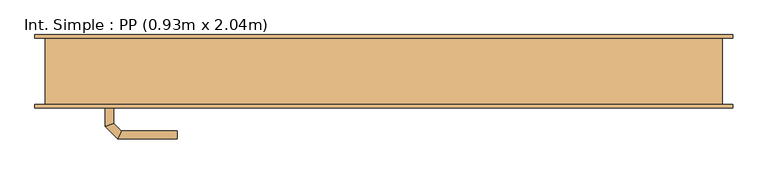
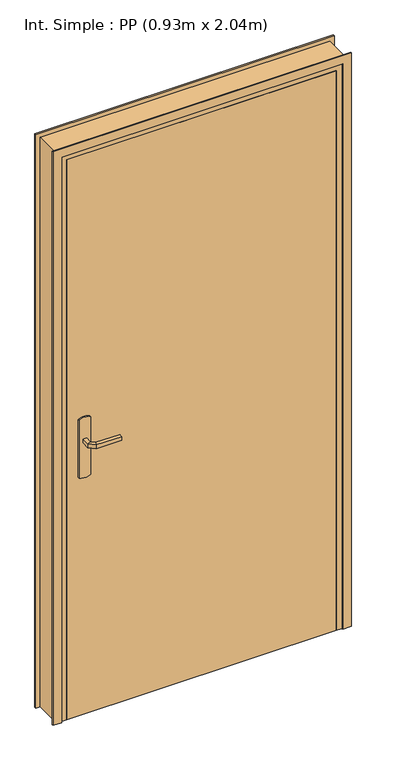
"""IFC4 building model written with IfcOpenShell, lengths in millimetres: door geometry, Int. Simple : PP (0.93m x 2.04m)."""

from ifc_helpers import new_model, si_unit, point, frame, frame_2d, origin, origin_with_axes, place, context, project, spatial, polyline, circle_curve, ellipse_curve, trimmed, segment, composite_curve, outline, extrude, faceted_brep, source, transform, mapped, element, save
from ifc_brep_helpers import plane_surface, cylinder_surface, advanced_brep


def int_simple_pp_0_93m_x_2_04m_e5c7a8a5(model_context):
    return source(origin(), model_context, "Body", "SolidModel", [
        extrude(outline(composite_curve([segment(trimmed(circle_curve(frame_2d((904.6410162, -440.0)), 40.0), [point((870.0, -460.0))], [point((870.0, -420.0))], False, "CARTESIAN"), True, "CONTINUOUS"), segment(polyline([(870.0, -420.0), (1080.0, -420.0)]), True, "CONTINUOUS"), segment(trimmed(circle_curve(frame_2d((1045.3589838, -440.0)), 40.0), [point((1080.0, -420.0))], [point((1080.0, -460.0))], False, "CARTESIAN"), True, "CONTINUOUS"), segment(polyline([(1080.0, -460.0), (870.0, -460.0)]), True, "CONTINUOUS")], self_intersect=False)), frame((0.0, -54.0, 0.0), z_axis=(0.0, 1.0, 0.0), x_axis=(0.0, 0.0, 1.0)), (0.0, 0.0, 1.0), 5.0),
        extrude(outline(composite_curve([segment(trimmed(circle_curve(frame_2d((1045.3589838, -440.0)), 40.0), [point((1080.0, -420.0))], [point((1080.0, -460.0))], False, "CARTESIAN"), True, "CONTINUOUS"), segment(polyline([(1080.0, -460.0), (870.0, -460.0)]), True, "CONTINUOUS"), segment(trimmed(circle_curve(frame_2d((904.6410162, -440.0)), 40.0), [point((870.0, -460.0))], [point((870.0, -420.0))], False, "CARTESIAN"), True, "CONTINUOUS"), segment(polyline([(870.0, -420.0), (1080.0, -420.0)]), True, "CONTINUOUS")], self_intersect=False)), frame((0.0, -9.0, 0.0), z_axis=(0.0, 1.0, 0.0), x_axis=(0.0, 0.0, 1.0)), (0.0, 0.0, 1.0), 5.0),
        advanced_brep(
        [(-446.0, -54.0, 1007.0), (-434.0, -54.0, 1007.0), (-434.0, -54.0, 993.0), (-446.0, -54.0, 993.0), (-446.0, -81.6509507, 1007.0), (-434.0, -76.680388, 1007.0), (-434.0, -76.680388, 993.0), (-446.0, -81.6509507, 993.0), (-427.62279, -100.0281607, 1007.0), (-422.6522273, -88.0281607, 1007.0), (-422.6522273, -88.0281607, 993.0), (-427.62279, -100.0281607, 993.0), (-339.9813594, -100.0281607, 1007.0), (-339.9813594, -100.0281607, 993.0), (-339.9813594, -88.0281607, 993.0), (-339.9813594, -88.0281607, 1007.0)],
        [
            (0, 1, circle_curve(frame((-440.0, -54.0, 986.9542278), z_axis=(0.0, 1.0, 0.0), x_axis=(1.0, 0.0, 0.0)), 20.9244589)),
            (1, 2),
            (2, 3, circle_curve(frame((-440.0, -54.0, 1013.0457722), z_axis=(0.0, 1.0, 0.0), x_axis=(1.0, 0.0, 0.0)), 20.9244589)),
            (3, 0),
            (0, 4),
            (4, 5, ellipse_curve(frame((-440.0, -79.1656693, 986.9542278), z_axis=(-0.3826834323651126, 0.9238795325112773, 0.0), x_axis=(0.9238795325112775, 0.38268343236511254, 0.0)), 22.6484711, 20.9244589)),
            (5, 1),
            (5, 6),
            (6, 2),
            (6, 7, ellipse_curve(frame((-440.0, -79.1656693, 1013.0457722), z_axis=(-0.3826834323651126, 0.9238795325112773, 0.0), x_axis=(0.9238795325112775, 0.38268343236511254, 0.0)), 22.6484711, 20.9244589)),
            (7, 3),
            (7, 4),
            (4, 8),
            (8, 9, ellipse_curve(frame((-425.1375086, -94.0281607, 986.9542278), z_axis=(-0.9238795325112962, 0.38268343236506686, 0.0), x_axis=(0.3826834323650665, 0.9238795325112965, 0.0)), 22.6484711, 20.9244589)),
            (9, 5),
            (9, 10),
            (10, 6),
            (10, 11, ellipse_curve(frame((-425.1375086, -94.0281607, 1013.0457722), z_axis=(-0.9238795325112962, 0.38268343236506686, 0.0), x_axis=(0.3826834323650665, 0.9238795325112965, 0.0)), 22.6484711, 20.9244589)),
            (11, 7),
            (11, 8),
            (12, 13),
            (13, 14, circle_curve(frame((-339.9813594, -94.0281607, 1013.0457722), z_axis=(1.0, 0.0, 0.0), x_axis=(0.0, 1.0, 0.0)), 20.9244589)),
            (14, 15),
            (15, 12, circle_curve(frame((-339.9813594, -94.0281607, 986.9542278), z_axis=(1.0, 0.0, 0.0), x_axis=(0.0, 1.0, 0.0)), 20.9244589)),
            (8, 12),
            (15, 9),
            (14, 10),
            (13, 11),
        ],
        [
            plane_surface(frame((-449.2195445, -54.0, 1000.0), z_axis=(0.0, 1.0, 0.0), x_axis=(0.0, 0.0, -1.0))),
            cylinder_surface(frame((-440.0, -54.0, 986.9542278), z_axis=(0.0, 1.0, 0.0), x_axis=(1.0, 0.0, 0.0)), 20.9244589),
            plane_surface(frame((-434.0, -54.0, 1007.0), z_axis=(1.0, 0.0, 0.0), x_axis=(0.0, -1.0, 0.0))),
            cylinder_surface(frame((-440.0, -54.0, 1013.0457722), z_axis=(0.0, 1.0, 0.0), x_axis=(1.0, 0.0, 0.0)), 20.9244589),
            plane_surface(frame((-446.0, -54.0, 993.0), z_axis=(-1.0, 0.0, 0.0), x_axis=(0.0, -1.0, 0.0))),
            cylinder_surface(frame((-440.0, -79.1656693, 986.9542278), z_axis=(-0.7071067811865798, 0.7071067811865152, 0.0), x_axis=(0.7071067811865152, 0.7071067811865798, 0.0)), 20.9244589),
            plane_surface(frame((-434.0, -76.680388, 1007.0), z_axis=(0.7071067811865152, 0.7071067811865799, 0.0), x_axis=(0.7071067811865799, -0.7071067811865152, 0.0))),
            cylinder_surface(frame((-440.0, -79.1656693, 1013.0457722), z_axis=(-0.7071067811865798, 0.7071067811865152, 0.0), x_axis=(0.7071067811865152, 0.7071067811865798, 0.0)), 20.9244589),
            plane_surface(frame((-446.0, -81.6509507, 993.0), z_axis=(-0.7071067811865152, -0.7071067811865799, 0.0), x_axis=(0.7071067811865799, -0.7071067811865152, 0.0))),
            plane_surface(frame((-339.9813594, -94.0281607, 990.7804555), z_axis=(1.0, 0.0, 0.0), x_axis=(0.0, 1.0, 0.0))),
            cylinder_surface(frame((-425.1375086, -94.0281607, 986.9542278), z_axis=(-1.0, 0.0, 0.0), x_axis=(0.0, 1.0, 0.0)), 20.9244589),
            plane_surface(frame((-422.6522273, -88.0281607, 1007.0), z_axis=(0.0, 1.0, 0.0), x_axis=(1.0, 0.0, 0.0))),
            cylinder_surface(frame((-425.1375086, -94.0281607, 1013.0457722), z_axis=(-1.0, 0.0, 0.0), x_axis=(0.0, 1.0, 0.0)), 20.9244589),
            plane_surface(frame((-427.62279, -100.0281607, 993.0), z_axis=(0.0, -1.0, 0.0), x_axis=(1.0, 0.0, 0.0))),
        ],
        [
            (0, [[1, 2, 3, 4]]),
            (1, [[-1, 5, 6, 7]]),
            (2, [[-2, -7, 8, 9]]),
            (3, [[-3, -9, 10, 11]]),
            (4, [[-4, -11, 12, -5]]),
            (5, [[-6, 13, 14, 15]]),
            (6, [[-8, -15, 16, 17]]),
            (7, [[-10, -17, 18, 19]]),
            (8, [[-12, -19, 20, -13]]),
            (9, [[21, 22, 23, 24]]),
            (10, [[-14, 25, -24, 26]]),
            (11, [[-16, -26, -23, 27]]),
            (12, [[-18, -27, -22, 28]]),
            (13, [[-20, -28, -21, -25]]),
        ],
    ),
        advanced_brep(
        [(-434.0, -4.0, 993.0), (-434.0, -4.0, 1007.0), (-446.0, -4.0, 1007.0), (-446.0, -4.0, 993.0), (-434.0, 18.4852045, 993.0), (-434.0, 18.4852045, 1007.0), (-446.0, 23.4557673, 1007.0), (-446.0, 23.4557673, 993.0), (-422.5147186, 29.9704859, 993.0), (-422.5147186, 29.9704859, 1007.0), (-427.4852814, 41.9704859, 1007.0), (-427.4852814, 41.9704859, 993.0), (-339.9542163, 29.9704859, 993.0), (-339.9542163, 41.9704859, 993.0), (-339.9542163, 41.9704859, 1007.0), (-339.9542163, 29.9704859, 1007.0)],
        [
            (0, 1),
            (1, 2, circle_curve(frame((-440.0, -4.0, 986.9542278), z_axis=(0.0, -1.0, 0.0), x_axis=(-1.0, 0.0, 0.0)), 20.9244589)),
            (2, 3),
            (3, 0, circle_curve(frame((-440.0, -4.0, 1013.0457722), z_axis=(0.0, -1.0, 0.0), x_axis=(-1.0, 0.0, 0.0)), 20.9244589)),
            (0, 4),
            (4, 5),
            (5, 1),
            (5, 6, ellipse_curve(frame((-440.0, 20.9704859, 986.9542278), z_axis=(-0.3826834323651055, -0.9238795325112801, 0.0), x_axis=(0.9238795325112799, -0.3826834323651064, 0.0)), 22.6484711, 20.9244589)),
            (6, 2),
            (6, 7),
            (7, 3),
            (7, 4, ellipse_curve(frame((-440.0, 20.9704859, 1013.0457722), z_axis=(-0.3826834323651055, -0.9238795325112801, 0.0), x_axis=(0.9238795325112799, -0.3826834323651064, 0.0)), 22.6484711, 20.9244589)),
            (4, 8),
            (8, 9),
            (9, 5),
            (9, 10, ellipse_curve(frame((-425.0, 35.9704859, 986.9542278), z_axis=(-0.9238795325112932, -0.382683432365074, 0.0), x_axis=(0.3826834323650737, -0.9238795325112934, 0.0)), 22.6484711, 20.9244589)),
            (10, 6),
            (10, 11),
            (11, 7),
            (11, 8, ellipse_curve(frame((-425.0, 35.9704859, 1013.0457722), z_axis=(-0.9238795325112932, -0.382683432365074, 0.0), x_axis=(0.3826834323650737, -0.9238795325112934, 0.0)), 22.6484711, 20.9244589)),
            (12, 13, circle_curve(frame((-339.9542163, 35.9704859, 1013.0457722), z_axis=(1.0, 0.0, 0.0), x_axis=(0.0, 1.0, 0.0)), 20.9244589)),
            (13, 14),
            (14, 15, circle_curve(frame((-339.9542163, 35.9704859, 986.9542278), z_axis=(1.0, 0.0, 0.0), x_axis=(0.0, 1.0, 0.0)), 20.9244589)),
            (15, 12),
            (8, 12),
            (15, 9),
            (14, 10),
            (13, 11),
        ],
        [
            plane_surface(frame((-449.2195445, -4.0, 1000.0), z_axis=(0.0, -1.0, 0.0), x_axis=(0.0, 0.0, 1.0))),
            plane_surface(frame((-434.0, -4.0, 993.0), z_axis=(1.0, 0.0, 0.0), x_axis=(0.0, 1.0, 0.0))),
            cylinder_surface(frame((-440.0, -4.0, 986.9542278), z_axis=(0.0, -1.0, 0.0), x_axis=(-1.0, 0.0, 0.0)), 20.9244589),
            plane_surface(frame((-446.0, -4.0, 1007.0), z_axis=(-1.0, 0.0, 0.0), x_axis=(0.0, 1.0, 0.0))),
            cylinder_surface(frame((-440.0, -4.0, 1013.0457722), z_axis=(0.0, -1.0, 0.0), x_axis=(-1.0, 0.0, 0.0)), 20.9244589),
            plane_surface(frame((-434.0, 18.4852045, 993.0), z_axis=(0.7071067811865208, -0.7071067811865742, 0.0), x_axis=(0.7071067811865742, 0.7071067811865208, 0.0))),
            cylinder_surface(frame((-440.0, 20.9704859, 986.9542278), z_axis=(-0.7071067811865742, -0.7071067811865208, 0.0), x_axis=(-0.7071067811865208, 0.7071067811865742, 0.0)), 20.9244589),
            plane_surface(frame((-446.0, 23.4557673, 1007.0), z_axis=(-0.7071067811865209, 0.7071067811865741, 0.0), x_axis=(0.7071067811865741, 0.7071067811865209, 0.0))),
            cylinder_surface(frame((-440.0, 20.9704859, 1013.0457722), z_axis=(-0.7071067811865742, -0.7071067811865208, 0.0), x_axis=(-0.7071067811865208, 0.7071067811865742, 0.0)), 20.9244589),
            plane_surface(frame((-339.9542163, 35.9704859, 990.7804555), z_axis=(1.0, 0.0, 0.0), x_axis=(0.0, 1.0, 0.0))),
            plane_surface(frame((-422.5147186, 29.9704859, 993.0), z_axis=(0.0, -1.0, 0.0), x_axis=(1.0, 0.0, 0.0))),
            cylinder_surface(frame((-425.0, 35.9704859, 986.9542278), z_axis=(-1.0, 0.0, 0.0), x_axis=(0.0, 1.0, 0.0)), 20.9244589),
            plane_surface(frame((-427.4852814, 41.9704859, 1007.0), z_axis=(0.0, 1.0, 0.0), x_axis=(1.0, 0.0, 0.0))),
            cylinder_surface(frame((-425.0, 35.9704859, 1013.0457722), z_axis=(-1.0, 0.0, 0.0), x_axis=(0.0, 1.0, 0.0)), 20.9244589),
        ],
        [
            (0, [[1, 2, 3, 4]]),
            (1, [[-1, 5, 6, 7]]),
            (2, [[-2, -7, 8, 9]]),
            (3, [[-3, -9, 10, 11]]),
            (4, [[-4, -11, 12, -5]]),
            (5, [[-6, 13, 14, 15]]),
            (6, [[-8, -15, 16, 17]]),
            (7, [[-10, -17, 18, 19]]),
            (8, [[-12, -19, 20, -13]]),
            (9, [[21, 22, 23, 24]]),
            (10, [[-14, 25, -24, 26]]),
            (11, [[-16, -26, -23, 27]]),
            (12, [[-18, -27, -22, 28]]),
            (13, [[-20, -28, -21, -25]]),
        ],
    ),
        extrude(outline(polyline([(-500.0, -9.0), (430.0, -9.0), (430.0, -49.0), (-500.0, -49.0), (-500.0, -9.0)])), origin_with_axes(), (0.0, 0.0, 1.0), 2040.0),
        faceted_brep([(-535.0, -49.0, 0.0), (-535.0, 49.0, 0.0), (-485.0, 49.0, 0.0), (-485.0, -9.0, 0.0), (-500.0, -9.0, 0.0), (-500.0, -49.0, 0.0), (-535.0, -49.0, 2075.0), (-535.0, 49.0, 2075.0), (465.0, 49.0, 2075.0), (465.0, 49.0, 0.0), (415.0, 49.0, 0.0), (415.0, 49.0, 2025.0), (-485.0, 49.0, 2025.0), (-485.0, -9.0, 2025.0), (415.0, -9.0, 2025.0), (415.0, -9.0, 0.0), (430.0, -9.0, 0.0), (430.0, -9.0, 2040.0), (-500.0, -9.0, 2040.0), (-500.0, -49.0, 2040.0), (430.0, -49.0, 2040.0), (430.0, -49.0, 0.0), (465.0, -49.0, 0.0), (465.0, -49.0, 2075.0)], [[[0, 1, 2, 3, 4, 5]], [[1, 0, 6, 7]], [[2, 1, 7, 8, 9, 10, 11, 12]], [[3, 2, 12, 13]], [[4, 3, 13, 14, 15, 16, 17, 18]], [[5, 4, 18, 19]], [[0, 5, 19, 20, 21, 22, 23, 6]], [[8, 23, 22, 9]], [[22, 21, 16, 15, 10, 9]], [[14, 11, 10, 15]], [[20, 17, 16, 21]], [[7, 6, 23, 8]], [[13, 12, 11, 14]], [[19, 18, 17, 20]]]),
        extrude(outline(polyline([(0.0, -550.0), (0.0, -520.0), (2060.0, -520.0), (2060.0, 450.0), (0.0, 450.0), (0.0, 480.0), (2090.0, 480.0), (2090.0, -550.0), (0.0, -550.0)])), frame((0.0, -54.0, 0.0), z_axis=(0.0, 1.0, 0.0), x_axis=(0.0, 0.0, 1.0)), (0.0, 0.0, 1.0), 5.0),
        extrude(outline(polyline([(0.0, -550.0), (0.0, -520.0), (2060.0, -520.0), (2060.0, 450.0), (0.0, 450.0), (0.0, 480.0), (2090.0, 480.0), (2090.0, -550.0), (0.0, -550.0)])), frame((0.0, 49.0, 0.0), z_axis=(0.0, 1.0, 0.0), x_axis=(0.0, 0.0, 1.0)), (0.0, 0.0, 1.0), 5.0),
    ])


if __name__ == "__main__":
    model = new_model("IFC4")
    model_context = context("Model", 3, world=origin())
    ifc_project = project(units=[si_unit("LENGTHUNIT", "METRE", prefix="MILLI")], contexts=[model_context])
    site = spatial("IfcSite", under=ifc_project)
    building = spatial("IfcBuilding", under=site)
    placement = place(None, origin())
    int_simple_pp_0_93m_x_2_04m_shape = int_simple_pp_0_93m_x_2_04m_e5c7a8a5(model_context)
    element("IfcDoor", 1, ObjectType="Int. Simple : PP (0.93m x 2.04m)", at=placement, inside=building, context=model_context, shape_type="MappedRepresentation", body=[
        mapped(int_simple_pp_0_93m_x_2_04m_shape, transform((0.0, 0.0, 0.0), x_axis=(1.0, 0.0, 0.0), y_axis=(0.0, 1.0, 0.0), z_axis=(0.0, 0.0, 1.0))),
    ])
    save(model, "model.ifc")
